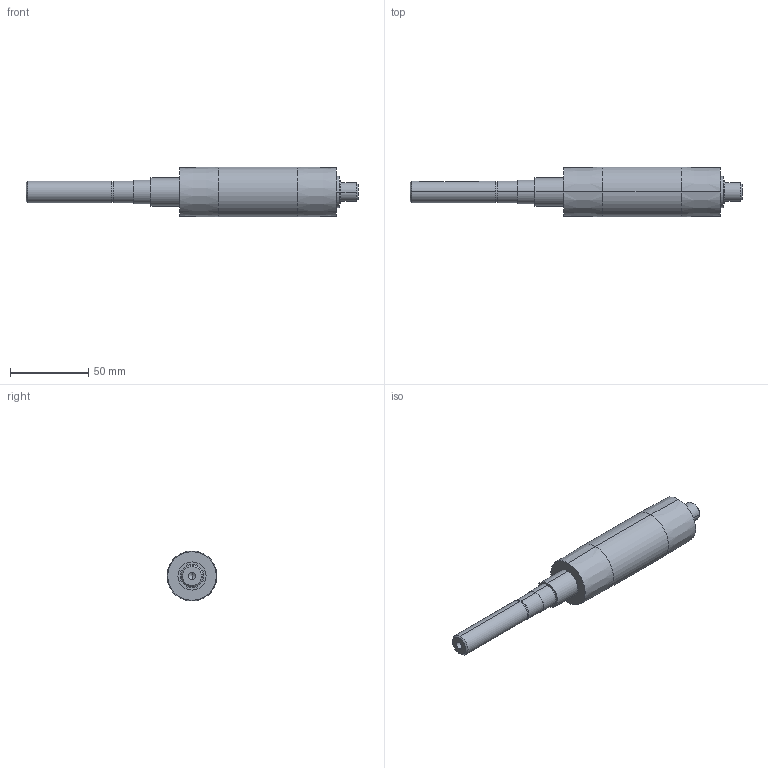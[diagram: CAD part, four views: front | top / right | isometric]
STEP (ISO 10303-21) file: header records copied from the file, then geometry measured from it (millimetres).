
FILE_DESCRIPTION (( 'STEP AP214' ), '1' );
FILE_NAME ('084.030.140.STEP', '2021-02-05T15:45:22', ( '' ), ( '' ), 'SwSTEP 2.0', 'SolidWorks 2018', '' );
FILE_SCHEMA (( 'AUTOMOTIVE_DESIGN' ));
Length unit declared in the file: millimetre
Products named in the file (1): 084.030.140
Bounding box: 212.5 x 32 x 32 mm (x, y, z)
Volume: 97473.4 mm3; surface area: 17195.2 mm2
Topology: 1 solids, 1 shells, 45 faces, 92 edges, 57 vertices
Faces by surface type: cylinder 22, plane 13, cone 10
Entity records: 1296 total; most frequent: CARTESIAN_POINT 255, DIRECTION 230, ORIENTED_EDGE 180, AXIS2_PLACEMENT_3D 96, EDGE_CURVE 90, VERTEX_POINT 57, EDGE_LOOP 55, CIRCLE 50
